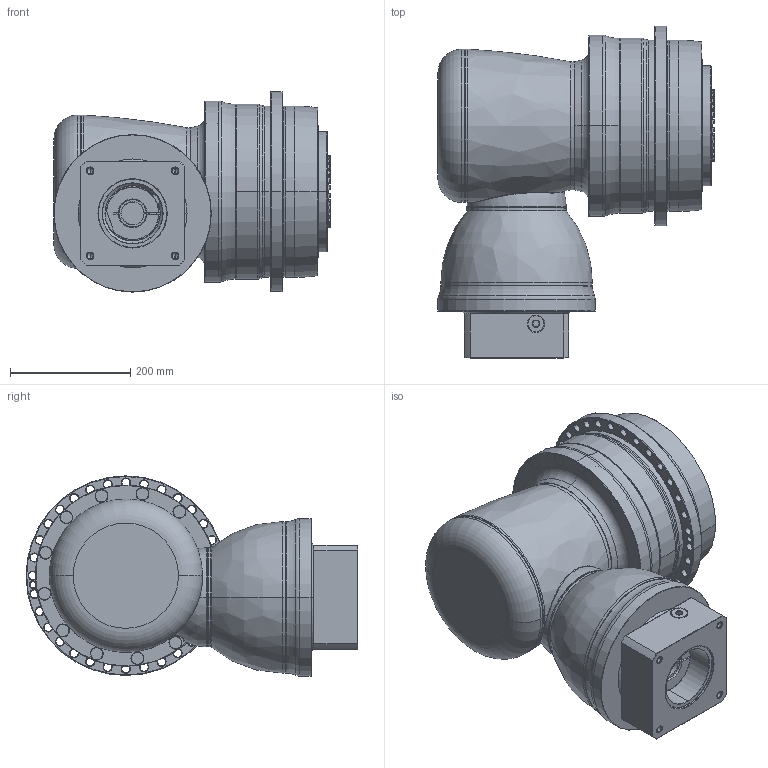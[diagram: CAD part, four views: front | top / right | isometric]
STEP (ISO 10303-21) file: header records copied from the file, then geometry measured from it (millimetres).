
FILE_DESCRIPTION((''),'2;1');
FILE_NAME('APCK285_2ST_38-P0409910201_ASM','2018-05-10T',('d01226'),(''),'PRO/ENGINEER BY PARAMETRIC TECHNOLOGY CORPORATION, 2008410','PRO/ENGINEER BY PARAMETRIC TECHNOLOGY CORPORATION, 2008410','');
FILE_SCHEMA(('CONFIG_CONTROL_DESIGN'));
Length unit declared in the file: millimetre
Products named in the file (13): P1008700002; P1802810001; P0278801003; P03598G0103; P1211800001; P1315700001; P1007701001; P1318701101; P0409910201; P0503900012; P0912751001; 21711422019; APCK285_2ST_38-P0409910201_ASM
Assembly tree (12 placements, depth 2):
  APCK285_2ST_38-P0409910201_ASM
    P1008700002
    P1802810001
    P0278801003
    P03598G0103
    P1211800001
    P1315700001
    P1007701001
    P1318701101
    P0409910201
    P0503900012
    P0912751001
    21711422019
Bounding box: 459.6 x 552 x 333 mm (x, y, z)
Volume: 35458426 mm3; surface area: 1859637.2 mm2
Topology: 13 solids, 25 shells, 952 faces, 2264 edges, 1397 vertices
Faces by surface type: cone 306, cylinder 300, plane 183, torus 133, bspline 28, sphere 2
Entity records: 36072 total; most frequent: CARTESIAN_POINT 13345, DIRECTION 5116, ORIENTED_EDGE 4450, EDGE_CURVE 2250, AXIS2_PLACEMENT_3D 2249, VERTEX_POINT 1397, CIRCLE 1288, EDGE_LOOP 1109
